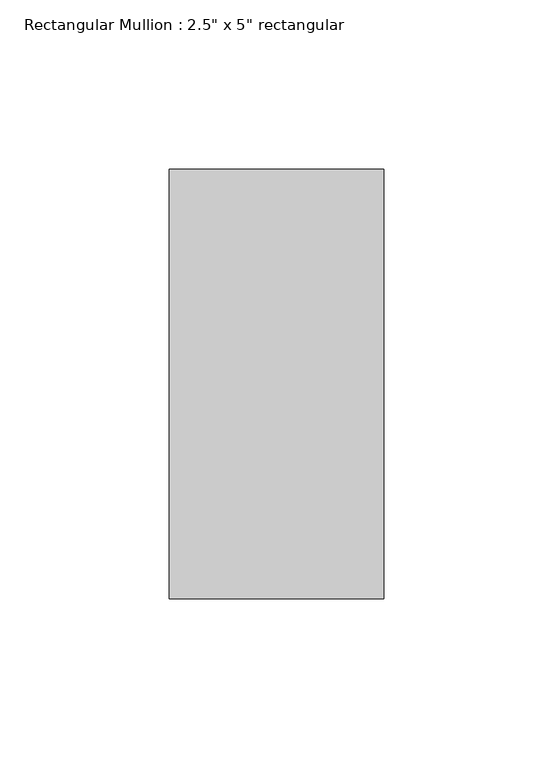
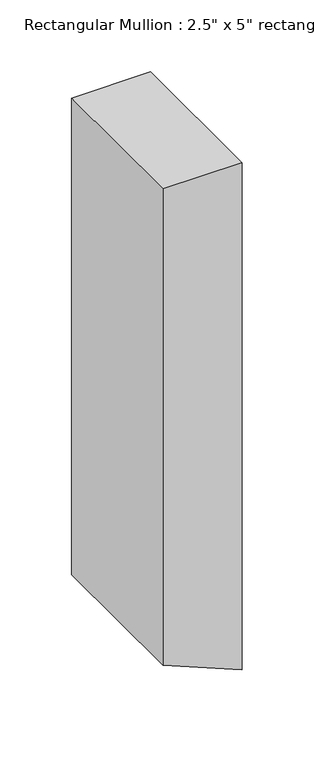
"""IFC4 building model written with IfcOpenShell, lengths in millimetres: member geometry."""

from ifc_helpers import new_model, si_unit, frame, origin, place, context, project, spatial, polyline, outline, extrude, source, transform, mapped, element, save


def member_e7ddae5d(model_context):
    return source(origin(), model_context, "Body", "SweptSolid", [
        extrude(outline(polyline([(0.0, 0.0), (0.0, -63.5), (-404.7497326, -63.5), (-431.0522938, 0.0), (0.0, 0.0)])), frame((0.0, -63.5, 0.0), z_axis=(0.0, 1.0, 0.0), x_axis=(0.0, 0.0, 1.0)), (0.0, 0.0, 1.0), 127.0),
    ])


if __name__ == "__main__":
    model = new_model("IFC4")
    model_context = context("Model", 3, world=origin())
    ifc_project = project(units=[si_unit("LENGTHUNIT", "METRE", prefix="MILLI")], contexts=[model_context])
    site = spatial("IfcSite", under=ifc_project)
    building = spatial("IfcBuilding", under=site)
    placement = place(None, origin())
    member_shape = member_e7ddae5d(model_context)
    element("IfcMember", 1, ObjectType="Rectangular Mullion : 2.5\" x 5\" rectangular", at=placement, inside=building, context=model_context, shape_type="MappedRepresentation", body=[
        mapped(member_shape, transform((0.0, 0.0, 0.0), x_axis=(1.0, 0.0, 0.0), y_axis=(0.0, 1.0, 0.0), z_axis=(0.0, 0.0, 1.0))),
    ])
    save(model, "model.ifc")
